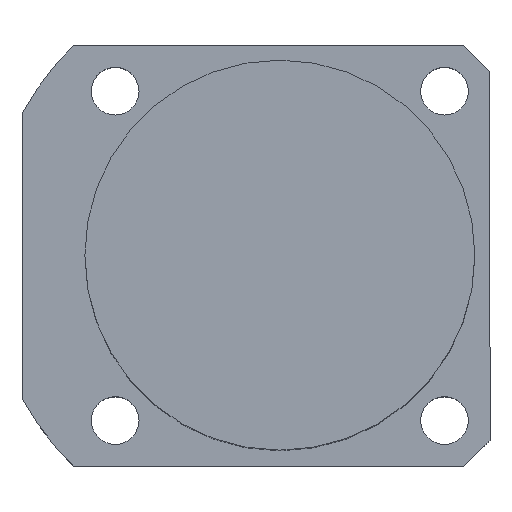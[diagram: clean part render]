
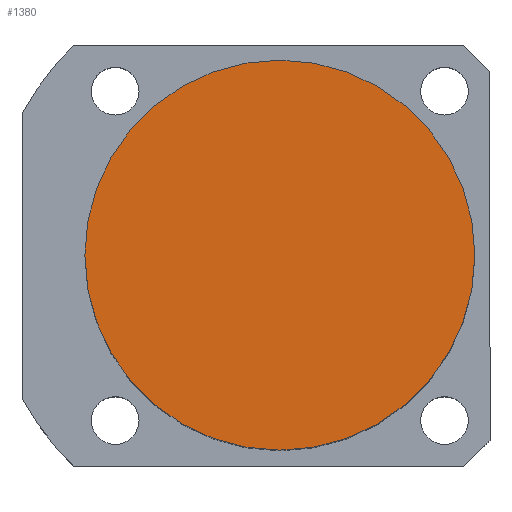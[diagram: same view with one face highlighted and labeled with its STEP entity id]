
A CAD part, top view. The second image highlights one B-rep face of the part: STEP entity #1380.
In plain terms, the highlighted planar face has unit normal (0, 0, 1).
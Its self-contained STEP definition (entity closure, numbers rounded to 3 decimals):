
#59 = CIRCLE ( 'NONE', #706, 45. ) ;
#96 = ORIENTED_EDGE ( 'NONE', *, *, #1034, .T. ) ;
#140 = CARTESIAN_POINT ( 'NONE',  ( 0., 0., 109.5 ) ) ;
#214 = CIRCLE ( 'NONE', #2082, 45. ) ;
#305 = DIRECTION ( 'NONE',  ( 0., 0., 1. ) ) ;
#559 = CARTESIAN_POINT ( 'NONE',  ( 45., 0., 109.5 ) ) ;
#603 = VERTEX_POINT ( 'NONE', #1487 ) ;
#641 = VERTEX_POINT ( 'NONE', #559 ) ;
#694 = CARTESIAN_POINT ( 'NONE',  ( 0., 0., 109.5 ) ) ;
#706 = AXIS2_PLACEMENT_3D ( 'NONE', #1178, #847, #1867 ) ;
#793 = PLANE ( 'NONE',  #1378 ) ;
#847 = DIRECTION ( 'NONE',  ( 0., 0., 1. ) ) ;
#1034 = EDGE_CURVE ( 'NONE', #603, #641, #59, .T. ) ;
#1134 = EDGE_LOOP ( 'NONE', ( #96, #1886 ) ) ;
#1178 = CARTESIAN_POINT ( 'NONE',  ( 0., 0., 109.5 ) ) ;
#1378 = AXIS2_PLACEMENT_3D ( 'NONE', #140, #305, #2172 ) ;
#1380 = ADVANCED_FACE ( 'NONE', ( #1788 ), #793, .T. ) ;
#1487 = CARTESIAN_POINT ( 'NONE',  ( -45., 0., 109.5 ) ) ;
#1708 = DIRECTION ( 'NONE',  ( 1., 0., 0. ) ) ;
#1788 = FACE_OUTER_BOUND ( 'NONE', #1134, .T. ) ;
#1867 = DIRECTION ( 'NONE',  ( 1., 0., 0. ) ) ;
#1886 = ORIENTED_EDGE ( 'NONE', *, *, #2146, .T. ) ;
#2050 = DIRECTION ( 'NONE',  ( 0., 0., 1. ) ) ;
#2082 = AXIS2_PLACEMENT_3D ( 'NONE', #694, #2050, #1708 ) ;
#2146 = EDGE_CURVE ( 'NONE', #641, #603, #214, .T. ) ;
#2172 = DIRECTION ( 'NONE',  ( 1., 0., 0. ) ) ;
